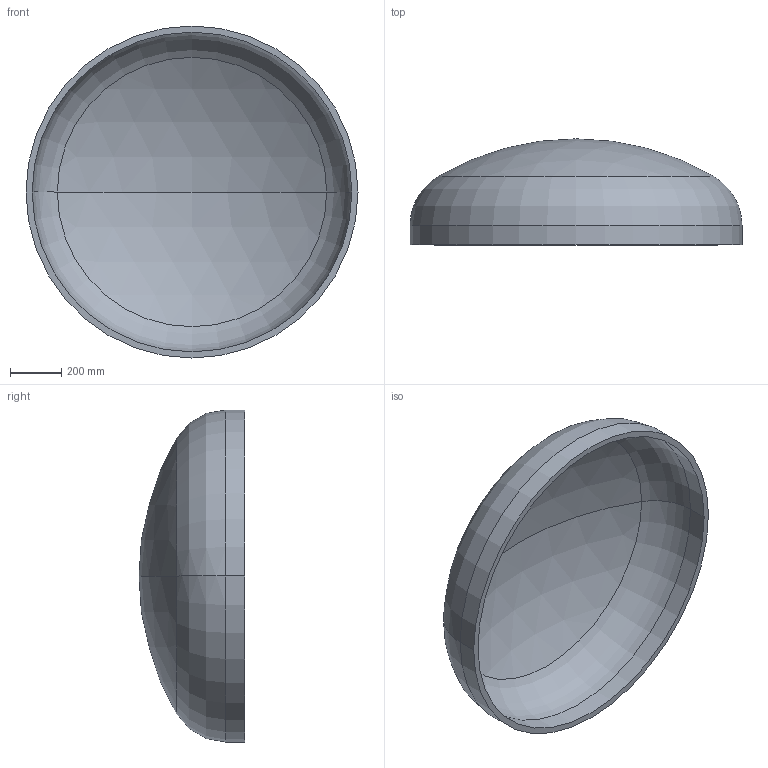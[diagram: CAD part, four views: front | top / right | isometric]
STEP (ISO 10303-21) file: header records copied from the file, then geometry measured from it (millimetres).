
FILE_DESCRIPTION (( 'STEP AP203' ), '1' );
FILE_NAME ('DIN 28013 Korbbogenform_-_Boden DIN 28013 - 1300 x 75 - I - s=24.step', '2016-07-01T09:46:32', ( '' ), ( '' ), 'SwSTEP 2.0', 'SolidWorks 2013', '' );
FILE_SCHEMA (( 'CONFIG_CONTROL_DESIGN' ));
Length unit declared in the file: millimetre
Products named in the file (1): DIN 28013 Korbbogenform_-_Boden DIN 28013 - 1300 x 75 - I - s=24
Bounding box: 1300 x 415.04 x 1300 mm (x, y, z)
Volume: 50266350 mm3; surface area: 4286275.6 mm2
Topology: 1 solids, 1 shells, 13 faces, 24 edges, 14 vertices
Faces by surface type: torus 4, cylinder 4, sphere 4, plane 1
Entity records: 407 total; most frequent: DIRECTION 72, CARTESIAN_POINT 52, ORIENTED_EDGE 48, AXIS2_PLACEMENT_3D 34, EDGE_CURVE 24, CIRCLE 20, VERTEX_POINT 14, EDGE_LOOP 14
